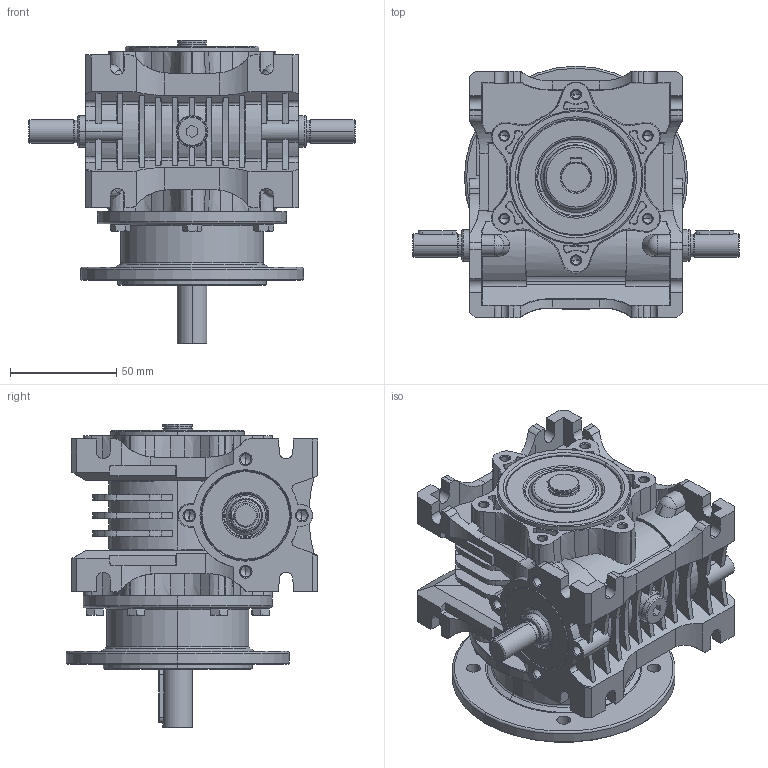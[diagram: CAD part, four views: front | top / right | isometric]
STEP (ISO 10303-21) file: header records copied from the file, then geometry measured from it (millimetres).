
FILE_DESCRIPTION (( 'STEP AP203' ), '1' );
FILE_NAME ('MR-32_WBS2-K105-WJ-3D.STEP', '2026-02-04T08:18:51', ( '' ), ( '' ), 'SwSTEP 2.0', 'SolidWorks 2022', '' );
FILE_SCHEMA (( 'CONFIG_CONTROL_DESIGN' ));
Products named in the file (1): MR-32_WBS2-K105-WJ-3D
Bounding box: 153.5 x 118.5 x 143 mm (x, y, z)
Volume: 615524.9 mm3; surface area: 133801.4 mm2
Topology: 1 solids, 24 shells, 1592 faces, 4162 edges, 2633 vertices
Faces by surface type: plane 627, cone 469, cylinder 375, torus 66, bspline 49, sphere 6
Entity records: 53296 total; most frequent: CARTESIAN_POINT 15324, ORIENTED_EDGE 8222, DIRECTION 7726, EDGE_CURVE 4111, AXIS2_PLACEMENT_3D 2861, VERTEX_POINT 2632, VECTOR 2004, LINE 2004
